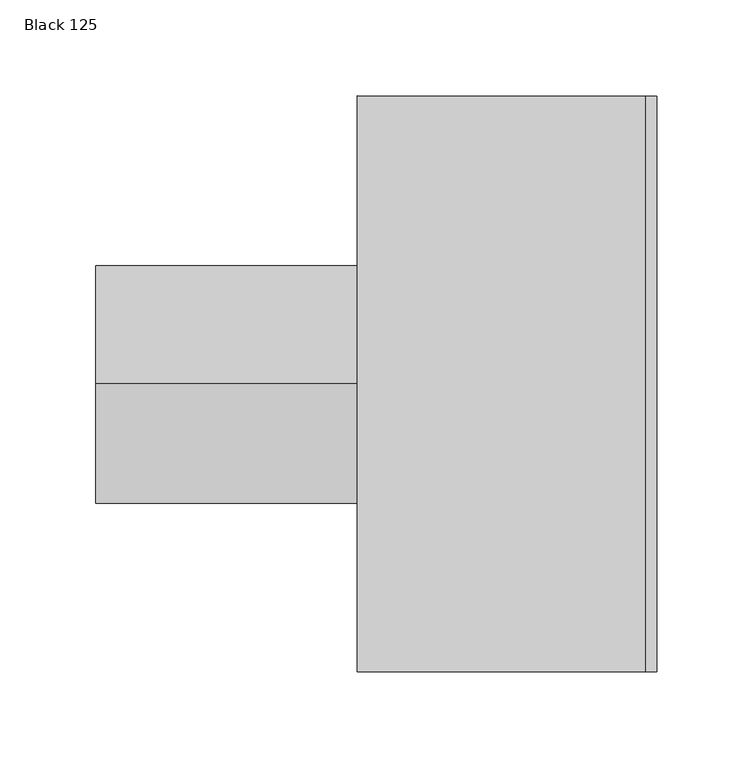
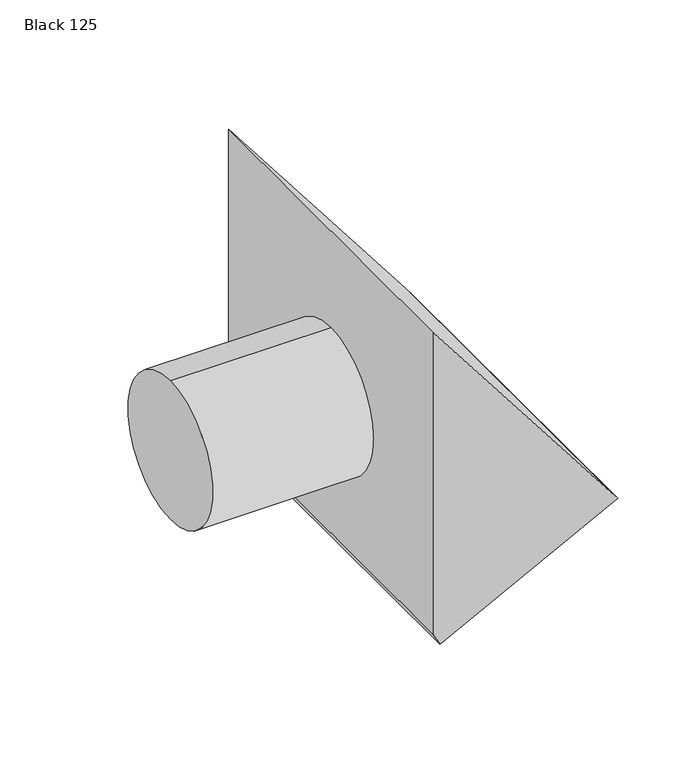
"""IFC4 building model written with IfcOpenShell, lengths in millimetres: air terminal geometry, NLRS_57_AIR_LB_walloutlet terminals_M&G : Black 125."""

from ifc_helpers import new_model, si_unit, point, frame, origin, origin_2d, place, context, project, spatial, circle_curve, trimmed, segment, composite_curve, outline, extrude, faceted_brep, source, transform, mapped, element, save


def black_125_071c14e0(model_context):
    return source(origin(), model_context, "Body", "SolidModel", [
        extrude(outline(composite_curve([segment(trimmed(circle_curve(origin_2d(), 62.0), [point((0.0, 62.0))], [point((0.0, -62.0))], False, "CARTESIAN"), True, "CONTINUOUS"), segment(trimmed(circle_curve(origin_2d(), 62.0), [point((0.0, -62.0))], [point((0.0, 62.0))], False, "CARTESIAN"), True, "CONTINUOUS")], self_intersect=False)), frame((-136.0, 0.0, 0.0), z_axis=(1.0, 0.0, 0.0), x_axis=(0.0, 1.0, 0.0)), (0.0, 0.0, 1.0), 136.0),
        faceted_brep([(150.0, -150.0, -46.5), (0.0, -150.0, 148.5), (0.0, -150.0, -121.6514627), (5.5528144, -150.0, -132.3786692), (156.1108159, -150.0, -54.4440606), (150.0, 150.0, -46.5), (156.1108159, 150.0, -54.4440606), (5.5528144, 150.0, -132.3786692), (0.0, 150.0, -121.6514627), (0.0, 150.0, 148.5), (153.0025579, 146.5, -56.0530144), (8.6610724, 146.5, -130.7697154), (8.6610724, -146.5, -130.7697154), (153.0025579, -146.5, -56.0530144), (148.405547, 146.5, -47.1722773), (148.405547, -146.5, -47.1722773), (4.0640615, -146.5, -121.8889783), (4.0640615, 146.5, -121.8889783)], [[[0, 1, 2, 3, 4]], [[5, 6, 7, 8, 9]], [[1, 0, 5, 9]], [[2, 1, 9, 8]], [[3, 2, 8, 7]], [[4, 3, 7, 6], [10, 11, 12, 13]], [[0, 4, 6, 5]], [[14, 15, 16, 17]], [[14, 17, 11, 10]], [[17, 16, 12, 11]], [[16, 15, 13, 12]], [[15, 14, 10, 13]]]),
    ])


if __name__ == "__main__":
    model = new_model("IFC4")
    model_context = context("Model", 3, world=origin())
    ifc_project = project(units=[si_unit("LENGTHUNIT", "METRE", prefix="MILLI")], contexts=[model_context])
    site = spatial("IfcSite", under=ifc_project)
    building = spatial("IfcBuilding", under=site)
    placement = place(None, origin())
    black_125_shape = black_125_071c14e0(model_context)
    element("IfcAirTerminal", 1, ObjectType="NLRS_57_AIR_LB_walloutlet terminals_M&G : Black 125", at=placement, inside=building, context=model_context, shape_type="MappedRepresentation", body=[
        mapped(black_125_shape, transform((0.0, 0.0, 0.0), x_axis=(1.0, 0.0, 0.0), y_axis=(0.0, 1.0, 0.0), z_axis=(0.0, 0.0, 1.0))),
    ])
    save(model, "model.ifc")
